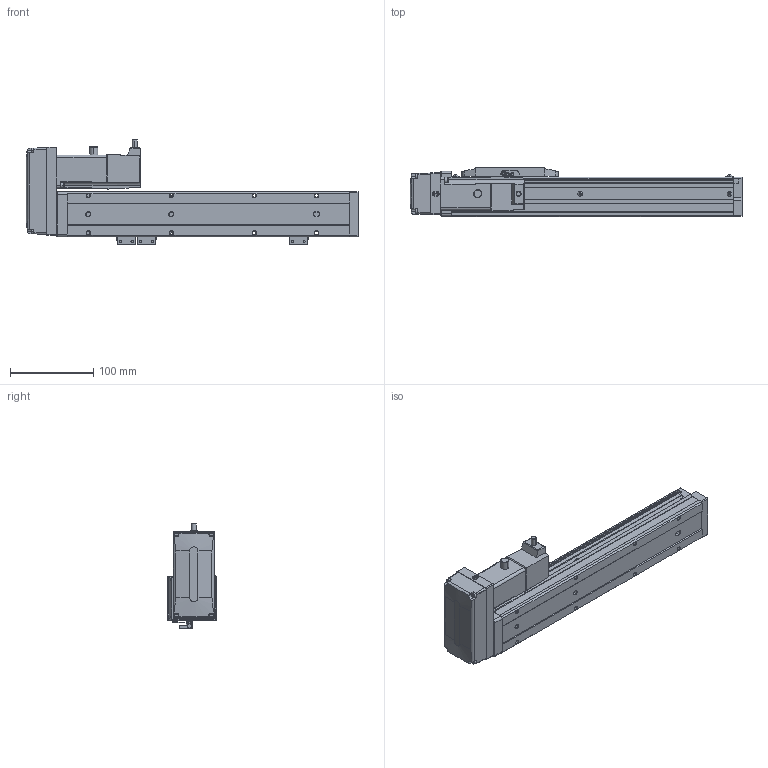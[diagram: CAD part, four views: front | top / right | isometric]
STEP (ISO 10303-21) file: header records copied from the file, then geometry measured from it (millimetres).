
FILE_DESCRIPTION (( 'STEP AP203' ), '1' );
FILE_NAME ('CTH5-L10-S200-BL-C10(¼ò).STEP', '2023-02-04T02:16:54', ( '' ), ( '' ), 'SwSTEP 2.0', 'SolidWorks 2018', '' );
FILE_SCHEMA (( 'CONFIG_CONTROL_DESIGN' ));
Length unit declared in the file: millimetre
Products named in the file (21): CTH5耜蚾欶; 100W萇儂; 葩璃 蚾饜极13^CTH8-L10-S50-BM-C40(潠)1; CTH5菁釱-L340; CTH5ヶ耜啣(潠); M3｡｣; 内六角圆柱头螺钉M3-2; T10-p1; CTH100W假蚾啣; CTH5-BL-T10_body5; CTH5-L10-S200-BL-C10(潠); hex nuts, style 1-grades ab gb_GB_FASTENER_NUT_SNAB1 M3-N; CTH5耜蚾蟀諉啣(潠); 嫖萇羲壽郪磁1; CTH5覜茼え; PM-Y45; CTH嫖萇羲壽假蚾啣; CTH5綴耜啣; CTH5賑怢-2; CTH5耜晚蹟隊-1; CTH5耜晚蹟隊
Assembly tree (35 placements, depth 3):
  CTH5-L10-S200-BL-C10(潠)
    CTH5綴耜啣
    CTH5賑怢-2
    CTH5ヶ耜啣(潠)
    CTH5菁釱-L340
    CTH5耜晚蹟隊  x2
    CTH5覜茼え
    CTH5耜晚蹟隊-1  x3
    CTH5耜蚾蟀諉啣(潠)
    CTH5耜蚾欶
      CTH5-BL-T10_body5
    100W萇儂
      T10-p1
    CTH100W假蚾啣
    葩璃 蚾饜极13^CTH8-L10-S50-BM-C40(潠)1  x2
      CTH嫖萇羲壽假蚾啣
      PM-Y45
      内六角圆柱头螺钉M3-2
      M3｡｣
      hex nuts, style 1-grades ab gb_GB_FASTENER_NUT_SNAB1 M3-N
    嫖萇羲壽郪磁1
      CTH嫖萇羲壽假蚾啣
      PM-Y45
      M3｡｣  x2
      内六角圆柱头螺钉M3-2  x2
      hex nuts, style 1-grades ab gb_GB_FASTENER_NUT_SNAB1 M3-N  x2
Bounding box: 400 x 60 x 126.31 mm (x, y, z)
Volume: 1145208.2 mm3; surface area: 186489.4 mm2
Topology: 38 solids, 38 shells, 1560 faces, 3907 edges, 2528 vertices
Faces by surface type: plane 881, cylinder 456, cone 167, torus 38, bspline 18
Entity records: 36120 total; most frequent: CARTESIAN_POINT 6709, DIRECTION 5689, ORIENTED_EDGE 5486, EDGE_CURVE 2743, AXIS2_PLACEMENT_3D 1943, VECTOR 1803, LINE 1803, VERTEX_POINT 1772
